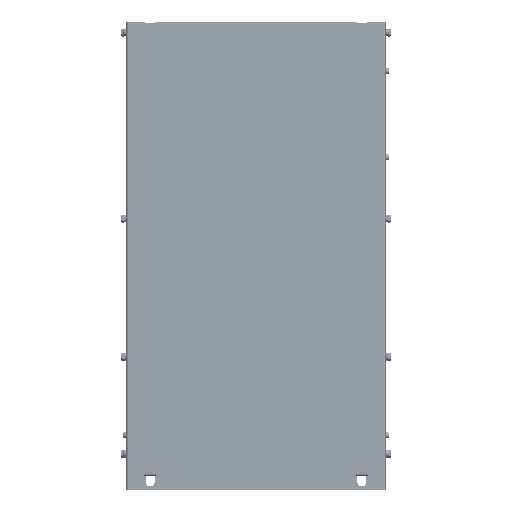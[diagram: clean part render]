
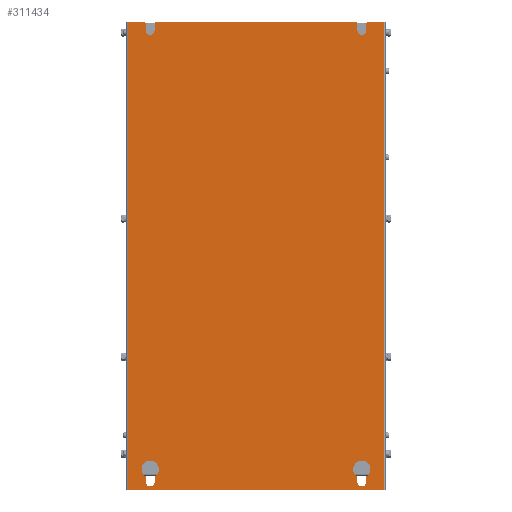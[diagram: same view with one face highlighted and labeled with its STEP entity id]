
A CAD part, top view. The second image highlights one B-rep face of the part: STEP entity #311434.
In plain terms, the highlighted planar face has unit normal (0, 0, 1) as drawn and (0, -1, 0) by its records, which use the part's own axes.
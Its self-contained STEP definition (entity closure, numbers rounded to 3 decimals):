
#291052=DIRECTION('',(0.707,0.,-0.707));
#291053=VECTOR('',#291052,2.121);
#291054=CARTESIAN_POINT('',(-129.,0.,272.));
#291055=LINE('',#291054,#291053);
#291059=DIRECTION('',(0.,0.,-1.));
#291060=VECTOR('',#291059,8.5);
#291061=CARTESIAN_POINT('',(-127.5,0.,270.5));
#291062=LINE('',#291061,#291060);
#291066=CARTESIAN_POINT('',(-122.5,0.,262.));
#291067=DIRECTION('',(0.,-1.,0.));
#291068=DIRECTION('',(-1.,0.,0.));
#291069=AXIS2_PLACEMENT_3D('',#291066,#291067,#291068);
#291074=DIRECTION('',(0.,0.,1.));
#291075=VECTOR('',#291074,8.5);
#291076=CARTESIAN_POINT('',(-117.5,0.,262.));
#291077=LINE('',#291076,#291075);
#291081=DIRECTION('',(0.707,0.,0.707));
#291082=VECTOR('',#291081,2.121);
#291083=CARTESIAN_POINT('',(-117.5,0.,270.5));
#291084=LINE('',#291083,#291082);
#291088=DIRECTION('',(1.,0.,0.));
#291089=VECTOR('',#291088,232.);
#291090=CARTESIAN_POINT('',(-116.,0.,272.));
#291091=LINE('',#291090,#291089);
#291095=DIRECTION('',(0.707,0.,-0.707));
#291096=VECTOR('',#291095,2.121);
#291097=CARTESIAN_POINT('',(116.,0.,272.));
#291098=LINE('',#291097,#291096);
#291102=DIRECTION('',(0.,0.,-1.));
#291103=VECTOR('',#291102,8.5);
#291104=CARTESIAN_POINT('',(117.5,0.,270.5));
#291105=LINE('',#291104,#291103);
#291109=CARTESIAN_POINT('',(122.5,0.,262.));
#291110=DIRECTION('',(0.,-1.,0.));
#291111=DIRECTION('',(-1.,0.,0.));
#291112=AXIS2_PLACEMENT_3D('',#291109,#291110,#291111);
#291117=DIRECTION('',(0.,0.,1.));
#291118=VECTOR('',#291117,8.5);
#291119=CARTESIAN_POINT('',(127.5,0.,262.));
#291120=LINE('',#291119,#291118);
#291124=DIRECTION('',(0.707,0.,0.707));
#291125=VECTOR('',#291124,2.121);
#291126=CARTESIAN_POINT('',(127.5,0.,270.5));
#291127=LINE('',#291126,#291125);
#291131=DIRECTION('',(-1.,0.,0.));
#291132=VECTOR('',#291131,296.);
#291133=CARTESIAN_POINT('',(148.,0.,-270.));
#291134=LINE('',#291133,#291132);
#291138=CARTESIAN_POINT('',(-122.5,0.,-246.));
#291139=DIRECTION('',(0.,-1.,0.));
#291140=DIRECTION('',(0.5,0.,-0.866));
#291141=AXIS2_PLACEMENT_3D('',#291138,#291139,#291140);
#291146=CARTESIAN_POINT('',(-122.5,0.,-246.));
#291147=DIRECTION('',(0.,-1.,0.));
#291148=DIRECTION('',(0.5,0.,0.866));
#291149=AXIS2_PLACEMENT_3D('',#291146,#291147,#291148);
#291154=CARTESIAN_POINT('',(-122.5,0.,-261.));
#291155=DIRECTION('',(0.,-1.,0.));
#291156=DIRECTION('',(-1.,0.,0.));
#291157=AXIS2_PLACEMENT_3D('',#291154,#291155,#291156);
#291162=CARTESIAN_POINT('',(122.5,0.,-246.));
#291163=DIRECTION('',(0.,-1.,0.));
#291164=DIRECTION('',(0.5,0.,-0.866));
#291165=AXIS2_PLACEMENT_3D('',#291162,#291163,#291164);
#291170=CARTESIAN_POINT('',(122.5,0.,-246.));
#291171=DIRECTION('',(0.,-1.,0.));
#291172=DIRECTION('',(0.5,0.,0.866));
#291173=AXIS2_PLACEMENT_3D('',#291170,#291171,#291172);
#291178=CARTESIAN_POINT('',(122.5,0.,-261.));
#291179=DIRECTION('',(0.,-1.,0.));
#291180=DIRECTION('',(-1.,0.,0.));
#291181=AXIS2_PLACEMENT_3D('',#291178,#291179,#291180);
#291315=DIRECTION('',(-1.,0.,0.));
#291316=VECTOR('',#291315,19.);
#291317=CARTESIAN_POINT('',(148.,0.,272.));
#291318=LINE('',#291317,#291316);
#296920=DIRECTION('',(-1.,0.,0.));
#296921=VECTOR('',#296920,19.);
#296922=CARTESIAN_POINT('',(-129.,0.,272.));
#296923=LINE('',#296922,#296921);
#302504=DIRECTION('',(0.,0.,-1.));
#302505=VECTOR('',#302504,542.);
#302506=CARTESIAN_POINT('',(-148.,0.,272.));
#302507=LINE('',#302506,#302505);
#302511=DIRECTION('',(0.,0.,1.));
#302512=VECTOR('',#302511,542.);
#302513=CARTESIAN_POINT('',(148.,0.,-270.));
#302514=LINE('',#302513,#302512);
#307962=DIRECTION('',(0.,0.,-1.));
#307963=VECTOR('',#307962,6.34);
#307964=CARTESIAN_POINT('',(-117.5,0.,-254.66));
#307965=LINE('',#307964,#307963);
#307983=DIRECTION('',(0.,0.,1.));
#307984=VECTOR('',#307983,6.34);
#307985=CARTESIAN_POINT('',(-127.5,0.,-261.));
#307986=LINE('',#307985,#307984);
#308004=DIRECTION('',(0.,0.,-1.));
#308005=VECTOR('',#308004,6.34);
#308006=CARTESIAN_POINT('',(127.5,0.,-254.66));
#308007=LINE('',#308006,#308005);
#308025=DIRECTION('',(0.,0.,1.));
#308026=VECTOR('',#308025,6.34);
#308027=CARTESIAN_POINT('',(117.5,0.,-261.));
#308028=LINE('',#308027,#308026);
#308102=CARTESIAN_POINT('',(-117.5,0.,-254.66));
#308103=VERTEX_POINT('',#308102);
#308104=CARTESIAN_POINT('',(-117.5,0.,-261.));
#308105=VERTEX_POINT('',#308104);
#308106=CARTESIAN_POINT('',(-127.5,0.,-254.66));
#308107=VERTEX_POINT('',#308106);
#308108=CARTESIAN_POINT('',(-117.5,0.,-237.34));
#308109=VERTEX_POINT('',#308108);
#308110=CARTESIAN_POINT('',(-127.5,0.,-261.));
#308111=VERTEX_POINT('',#308110);
#308112=CARTESIAN_POINT('',(-129.,0.,272.));
#308113=CARTESIAN_POINT('',(-127.5,0.,270.5));
#308114=VERTEX_POINT('',#308112);
#308115=VERTEX_POINT('',#308113);
#308116=CARTESIAN_POINT('',(-127.5,0.,262.));
#308117=VERTEX_POINT('',#308116);
#308118=CARTESIAN_POINT('',(-117.5,0.,262.));
#308119=VERTEX_POINT('',#308118);
#308120=CARTESIAN_POINT('',(-117.5,0.,270.5));
#308121=VERTEX_POINT('',#308120);
#308122=CARTESIAN_POINT('',(-116.,0.,272.));
#308123=VERTEX_POINT('',#308122);
#308124=CARTESIAN_POINT('',(116.,0.,272.));
#308125=VERTEX_POINT('',#308124);
#308126=CARTESIAN_POINT('',(117.5,0.,270.5));
#308127=VERTEX_POINT('',#308126);
#308128=CARTESIAN_POINT('',(117.5,0.,262.));
#308129=VERTEX_POINT('',#308128);
#308130=CARTESIAN_POINT('',(127.5,0.,262.));
#308131=VERTEX_POINT('',#308130);
#308132=CARTESIAN_POINT('',(127.5,0.,270.5));
#308133=VERTEX_POINT('',#308132);
#308134=CARTESIAN_POINT('',(129.,0.,272.));
#308135=VERTEX_POINT('',#308134);
#308136=CARTESIAN_POINT('',(148.,0.,272.));
#308137=VERTEX_POINT('',#308136);
#308138=CARTESIAN_POINT('',(148.,0.,-270.));
#308139=VERTEX_POINT('',#308138);
#308140=CARTESIAN_POINT('',(-148.,0.,-270.));
#308141=VERTEX_POINT('',#308140);
#308142=CARTESIAN_POINT('',(-148.,0.,272.));
#308143=VERTEX_POINT('',#308142);
#308144=CARTESIAN_POINT('',(127.5,0.,-254.66));
#308145=CARTESIAN_POINT('',(127.5,0.,-261.));
#308146=VERTEX_POINT('',#308144);
#308147=VERTEX_POINT('',#308145);
#308148=CARTESIAN_POINT('',(127.5,0.,-237.34));
#308149=CARTESIAN_POINT('',(117.5,0.,-254.66));
#308150=VERTEX_POINT('',#308148);
#308151=VERTEX_POINT('',#308149);
#308152=CARTESIAN_POINT('',(117.5,0.,-261.));
#308153=VERTEX_POINT('',#308152);
#311372=CARTESIAN_POINT('',(0.,0.,0.));
#311373=DIRECTION('',(0.,-1.,0.));
#311374=DIRECTION('',(0.,0.,-1.));
#311375=AXIS2_PLACEMENT_3D('',#311372,#311373,#311374);
#311376=PLANE('',#311375);
#311377=ORIENTED_EDGE('',*,*,#311362,.T.);
#311379=ORIENTED_EDGE('',*,*,#311378,.T.);
#311381=ORIENTED_EDGE('',*,*,#311380,.T.);
#311383=ORIENTED_EDGE('',*,*,#311382,.T.);
#311385=ORIENTED_EDGE('',*,*,#311384,.T.);
#311387=ORIENTED_EDGE('',*,*,#311386,.T.);
#311389=ORIENTED_EDGE('',*,*,#311388,.T.);
#311391=ORIENTED_EDGE('',*,*,#311390,.T.);
#311393=ORIENTED_EDGE('',*,*,#311392,.T.);
#311395=ORIENTED_EDGE('',*,*,#311394,.T.);
#311397=ORIENTED_EDGE('',*,*,#311396,.T.);
#311399=ORIENTED_EDGE('',*,*,#311398,.F.);
#311401=ORIENTED_EDGE('',*,*,#311400,.F.);
#311403=ORIENTED_EDGE('',*,*,#311402,.T.);
#311405=ORIENTED_EDGE('',*,*,#311404,.F.);
#311407=ORIENTED_EDGE('',*,*,#311406,.F.);
#311408=EDGE_LOOP('',(#311377,#311379,#311381,#311383,#311385,#311387,#311389,
#311391,#311393,#311395,#311397,#311399,#311401,#311403,#311405,#311407));
#311409=FACE_OUTER_BOUND('',#311408,.F.);
#311411=ORIENTED_EDGE('',*,*,#311410,.F.);
#311413=ORIENTED_EDGE('',*,*,#311412,.T.);
#311415=ORIENTED_EDGE('',*,*,#311414,.T.);
#311417=ORIENTED_EDGE('',*,*,#311416,.F.);
#311419=ORIENTED_EDGE('',*,*,#311418,.T.);
#311420=EDGE_LOOP('',(#311411,#311413,#311415,#311417,#311419));
#311421=FACE_BOUND('',#311420,.F.);
#311423=ORIENTED_EDGE('',*,*,#311422,.F.);
#311425=ORIENTED_EDGE('',*,*,#311424,.T.);
#311427=ORIENTED_EDGE('',*,*,#311426,.T.);
#311429=ORIENTED_EDGE('',*,*,#311428,.F.);
#311431=ORIENTED_EDGE('',*,*,#311430,.T.);
#311432=EDGE_LOOP('',(#311423,#311425,#311427,#311429,#311431));
#311433=FACE_BOUND('',#311432,.F.);
#291070=CIRCLE('',#291069,5.);
#291113=CIRCLE('',#291112,5.);
#291142=CIRCLE('',#291141,10.);
#291150=CIRCLE('',#291149,10.);
#291158=CIRCLE('',#291157,5.);
#291166=CIRCLE('',#291165,10.);
#291174=CIRCLE('',#291173,10.);
#291182=CIRCLE('',#291181,5.);
#311362=EDGE_CURVE('',#308114,#308115,#291055,.T.);
#311378=EDGE_CURVE('',#308115,#308117,#291062,.T.);
#311380=EDGE_CURVE('',#308117,#308119,#291070,.T.);
#311382=EDGE_CURVE('',#308119,#308121,#291077,.T.);
#311384=EDGE_CURVE('',#308121,#308123,#291084,.T.);
#311386=EDGE_CURVE('',#308123,#308125,#291091,.T.);
#311388=EDGE_CURVE('',#308125,#308127,#291098,.T.);
#311390=EDGE_CURVE('',#308127,#308129,#291105,.T.);
#311392=EDGE_CURVE('',#308129,#308131,#291113,.T.);
#311394=EDGE_CURVE('',#308131,#308133,#291120,.T.);
#311396=EDGE_CURVE('',#308133,#308135,#291127,.T.);
#311398=EDGE_CURVE('',#308137,#308135,#291318,.T.);
#311400=EDGE_CURVE('',#308139,#308137,#302514,.T.);
#311402=EDGE_CURVE('',#308139,#308141,#291134,.T.);
#311404=EDGE_CURVE('',#308143,#308141,#302507,.T.);
#311406=EDGE_CURVE('',#308114,#308143,#296923,.T.);
#311410=EDGE_CURVE('',#308103,#308105,#307965,.T.);
#311412=EDGE_CURVE('',#308103,#308109,#291142,.T.);
#311414=EDGE_CURVE('',#308109,#308107,#291150,.T.);
#311416=EDGE_CURVE('',#308111,#308107,#307986,.T.);
#311418=EDGE_CURVE('',#308111,#308105,#291158,.T.);
#311422=EDGE_CURVE('',#308146,#308147,#308007,.T.);
#311424=EDGE_CURVE('',#308146,#308150,#291166,.T.);
#311426=EDGE_CURVE('',#308150,#308151,#291174,.T.);
#311428=EDGE_CURVE('',#308153,#308151,#308028,.T.);
#311430=EDGE_CURVE('',#308153,#308147,#291182,.T.);
#311434=ADVANCED_FACE('',(#311409,#311421,#311433),#311376,.T.);
